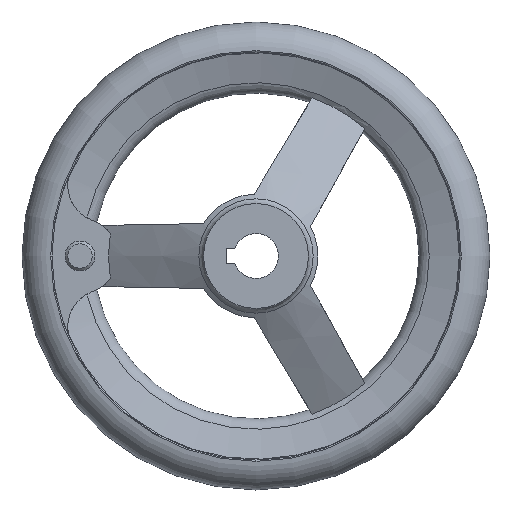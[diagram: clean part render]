
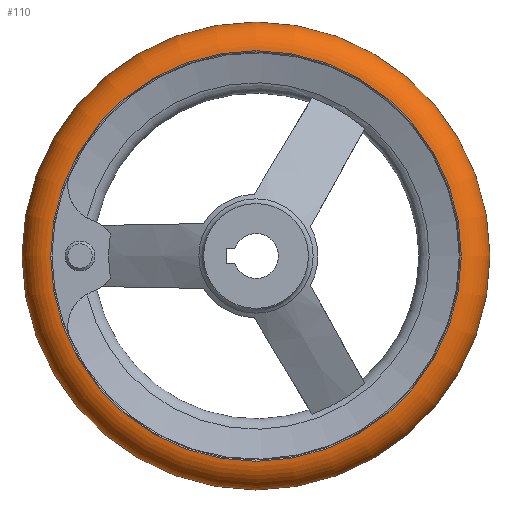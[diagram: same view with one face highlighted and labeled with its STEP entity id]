
A CAD part, left-side view. The second image highlights one B-rep face of the part: STEP entity #110.
In plain terms, the highlighted toroidal (fillet/blend) face has major radius 54.493 mm and minor radius 8.007 mm.
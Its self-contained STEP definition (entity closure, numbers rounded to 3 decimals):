
#110 = ADVANCED_FACE( '', ( #210, #211, #212 ), #213, .T. );
#210 = FACE_BOUND( '', #334, .T. );
#211 = FACE_OUTER_BOUND( '', #335, .T. );
#212 = FACE_OUTER_BOUND( '', #336, .T. );
#213 = TOROIDAL_SURFACE( '', #337, 54.493, 8.007 );
#334 = VERTEX_LOOP( '', #691 );
#335 = EDGE_LOOP( '', ( #692 ) );
#336 = EDGE_LOOP( '', ( #693 ) );
#337 = AXIS2_PLACEMENT_3D( '', #694, #695, #696 );
#691 = VERTEX_POINT( '', #880 );
#692 = ORIENTED_EDGE( '', *, *, #881, .T. );
#693 = ORIENTED_EDGE( '', *, *, #882, .F. );
#694 = CARTESIAN_POINT( '', ( 28., 0., 0. ) );
#695 = DIRECTION( '', ( 1., 0., 0. ) );
#696 = DIRECTION( '', ( 0., 1., 0. ) );
#880 = CARTESIAN_POINT( '', ( 28., 62.5, 0. ) );
#881 = EDGE_CURVE( '', #1067, #1067, #1068, .T. );
#882 = EDGE_CURVE( '', #1069, #1069, #1070, .T. );
#1067 = VERTEX_POINT( '', #1655 );
#1068 = CIRCLE( '', #1656, 54.833 );
#1069 = VERTEX_POINT( '', #1657 );
#1070 = CIRCLE( '', #1658, 54.833 );
#1655 = CARTESIAN_POINT( '', ( 20., 54.833, 0. ) );
#1656 = AXIS2_PLACEMENT_3D( '', #1822, #1823, #1824 );
#1657 = CARTESIAN_POINT( '', ( 36., 54.833, 0. ) );
#1658 = AXIS2_PLACEMENT_3D( '', #1825, #1826, #1827 );
#1822 = CARTESIAN_POINT( '', ( 20., 0., 0. ) );
#1823 = DIRECTION( '', ( 1., 0., 0. ) );
#1824 = DIRECTION( '', ( 0., 1., 0. ) );
#1825 = CARTESIAN_POINT( '', ( 36., 0., 0. ) );
#1826 = DIRECTION( '', ( 1., 0., 0. ) );
#1827 = DIRECTION( '', ( 0., 1., 0. ) );
